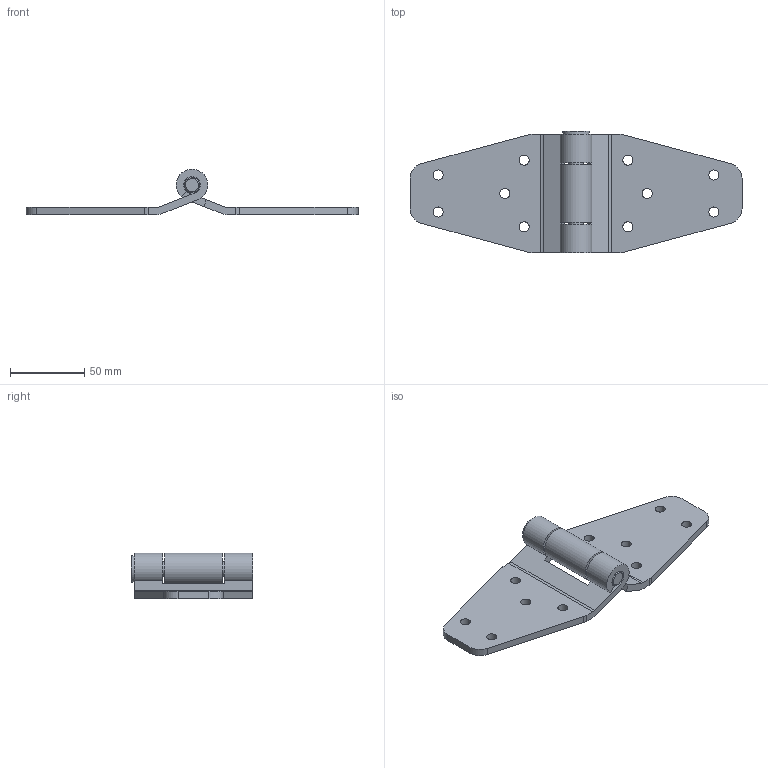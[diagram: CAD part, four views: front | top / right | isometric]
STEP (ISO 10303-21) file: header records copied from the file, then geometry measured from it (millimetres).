
FILE_DESCRIPTION(/* description */ ('Unknown'),/* implementation_level */ '2;1');
FILE_NAME(/* name */ '99.40800B004',/* time_stamp */ '2023-10-11T09:37:58+02:00',/* author */ ('Unknown'),/* organization */ ('Unknown'),/* preprocessor_version */ 'ST-DEVELOPER v16.7',/* originating_system */ 'DEX',/* authorisation */ $);
FILE_SCHEMA (('AUTOMOTIVE_DESIGN {1 0 10303 214 3 1 1}'));
Length unit declared in the file: millimetre
Products named in the file (4): 99.40800B004.04-D; 99.40800B004.04-D-Z1; 99.40800B004.04-D-Z2; 99.40800B004.04-D-Z3
Assembly tree (3 placements, depth 2):
  99.40800B004.04-D
    99.40800B004.04-D-Z1
    99.40800B004.04-D-Z2
    99.40800B004.04-D-Z3
Bounding box: 224 x 82 x 30.77 mm (x, y, z)
Volume: 91610.8 mm3; surface area: 43019.5 mm2
Topology: 3 solids, 3 shells, 93 faces, 254 edges, 169 vertices
Faces by surface type: plane 62, cylinder 30, cone 1
Full cylindrical faces by diameter (mm): 6.8 x10, 10 x1, 18 x1
Entity records: 3018 total; most frequent: CARTESIAN_POINT 507, DIRECTION 496, ORIENTED_EDGE 482, EDGE_CURVE 241, LINE 180, VECTOR 180, VERTEX_POINT 169, AXIS2_PLACEMENT_3D 158
